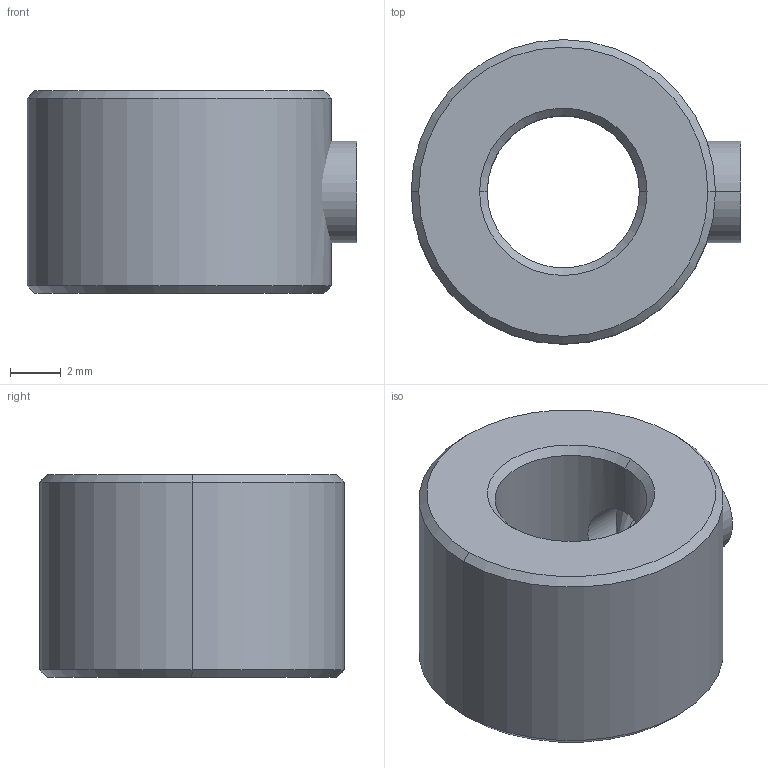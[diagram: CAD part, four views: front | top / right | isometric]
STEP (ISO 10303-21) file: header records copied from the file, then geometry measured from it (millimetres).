
FILE_DESCRIPTION (( 'STEP AP203' ), '1' );
FILE_NAME ('013.100.061.STEP', '2022-04-12T09:32:41', ( '' ), ( '' ), 'SwSTEP 2.0', 'SolidWorks 2021', '' );
FILE_SCHEMA (( 'CONFIG_CONTROL_DESIGN' ));
Length unit declared in the file: millimetre
Products named in the file (1): 013.100.061
Bounding box: 13 x 12 x 8 mm (x, y, z)
Volume: 680.9 mm3; surface area: 693 mm2
Topology: 2 solids, 2 shells, 29 faces, 64 edges, 38 vertices
Faces by surface type: plane 11, cone 10, cylinder 8
Entity records: 965 total; most frequent: CARTESIAN_POINT 234, DIRECTION 142, ORIENTED_EDGE 128, EDGE_CURVE 64, AXIS2_PLACEMENT_3D 52, VECTOR 38, LINE 38, VERTEX_POINT 38
